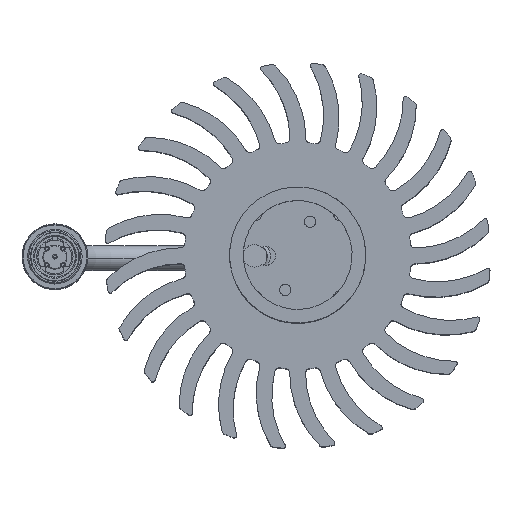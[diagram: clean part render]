
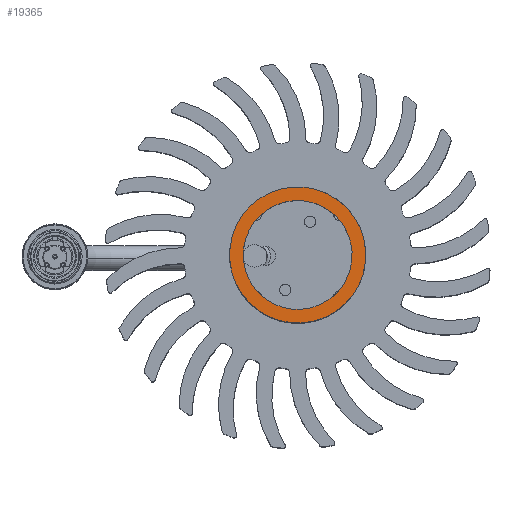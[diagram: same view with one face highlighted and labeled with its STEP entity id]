
A CAD part, top view. The second image highlights one B-rep face of the part: STEP entity #19365.
In plain terms, the highlighted planar face has unit normal (0, 0, 1).
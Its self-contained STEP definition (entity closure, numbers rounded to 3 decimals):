
#63 = FACE_OUTER_BOUND ( 'NONE', #3118, .T. ) ;
#95 = CIRCLE ( 'NONE', #13270, 12. ) ;
#974 = EDGE_CURVE ( 'NONE', #4567, #18811, #19539, .T. ) ;
#1069 = DIRECTION ( 'NONE',  ( 0.998, 0.065, 0. ) ) ;
#3118 = EDGE_LOOP ( 'NONE', ( #20655, #16966 ) ) ;
#3644 = DIRECTION ( 'NONE',  ( 0., 0., 1. ) ) ;
#4567 = VERTEX_POINT ( 'NONE', #9530 ) ;
#6634 = CARTESIAN_POINT ( 'NONE',  ( 0., 14.9, 105.98 ) ) ;
#7650 = DIRECTION ( 'NONE',  ( 0., 0., 1. ) ) ;
#9104 = CARTESIAN_POINT ( 'NONE',  ( 11.975, 15.676, 105.98 ) ) ;
#9374 = AXIS2_PLACEMENT_3D ( 'NONE', #12408, #13658, #17296 ) ;
#9530 = CARTESIAN_POINT ( 'NONE',  ( -11.975, 14.124, 105.98 ) ) ;
#9803 = VERTEX_POINT ( 'NONE', #17899 ) ;
#11471 = DIRECTION ( 'NONE',  ( 0.998, 0.065, 0. ) ) ;
#12408 = CARTESIAN_POINT ( 'NONE',  ( 0., 14.9, 105.98 ) ) ;
#12783 = CARTESIAN_POINT ( 'NONE',  ( -0.97, 29.869, 105.98 ) ) ;
#13063 = DIRECTION ( 'NONE',  ( 0., 0., 1. ) ) ;
#13270 = AXIS2_PLACEMENT_3D ( 'NONE', #20466, #7650, #1069 ) ;
#13658 = DIRECTION ( 'NONE',  ( 0., 0., 1. ) ) ;
#13659 = EDGE_LOOP ( 'NONE', ( #17442, #16353 ) ) ;
#13661 = DIRECTION ( 'NONE',  ( 0.998, 0.065, 0. ) ) ;
#14501 = EDGE_CURVE ( 'NONE', #20654, #9803, #17432, .T. ) ;
#14588 = FACE_BOUND ( 'NONE', #13659, .T. ) ;
#15386 = CARTESIAN_POINT ( 'NONE',  ( 0., 14.9, 105.98 ) ) ;
#16145 = EDGE_CURVE ( 'NONE', #9803, #20654, #16431, .T. ) ;
#16353 = ORIENTED_EDGE ( 'NONE', *, *, #974, .F. ) ;
#16387 = AXIS2_PLACEMENT_3D ( 'NONE', #6634, #13063, #11471 ) ;
#16431 = CIRCLE ( 'NONE', #20541, 15. ) ;
#16966 = ORIENTED_EDGE ( 'NONE', *, *, #14501, .T. ) ;
#17296 = DIRECTION ( 'NONE',  ( 0.998, 0.065, 0. ) ) ;
#17432 = CIRCLE ( 'NONE', #16387, 15. ) ;
#17442 = ORIENTED_EDGE ( 'NONE', *, *, #18762, .F. ) ;
#17899 = CARTESIAN_POINT ( 'NONE',  ( 14.969, 15.87, 105.98 ) ) ;
#18720 = CARTESIAN_POINT ( 'NONE',  ( -14.969, 13.93, 105.98 ) ) ;
#18762 = EDGE_CURVE ( 'NONE', #18811, #4567, #95, .T. ) ;
#18811 = VERTEX_POINT ( 'NONE', #9104 ) ;
#19271 = DIRECTION ( 'NONE',  ( 0., 0., -1. ) ) ;
#19365 = ADVANCED_FACE ( 'NONE', ( #14588, #63 ), #20847, .F. ) ;
#19473 = DIRECTION ( 'NONE',  ( -0.998, -0.065, 0. ) ) ;
#19539 = CIRCLE ( 'NONE', #9374, 12. ) ;
#20431 = AXIS2_PLACEMENT_3D ( 'NONE', #12783, #19271, #19473 ) ;
#20466 = CARTESIAN_POINT ( 'NONE',  ( 0., 14.9, 105.98 ) ) ;
#20541 = AXIS2_PLACEMENT_3D ( 'NONE', #15386, #3644, #13661 ) ;
#20654 = VERTEX_POINT ( 'NONE', #18720 ) ;
#20655 = ORIENTED_EDGE ( 'NONE', *, *, #16145, .T. ) ;
#20847 = PLANE ( 'NONE',  #20431 ) ;
